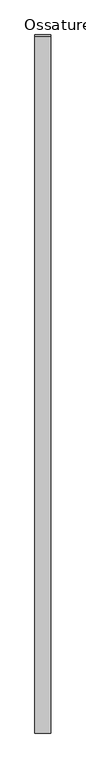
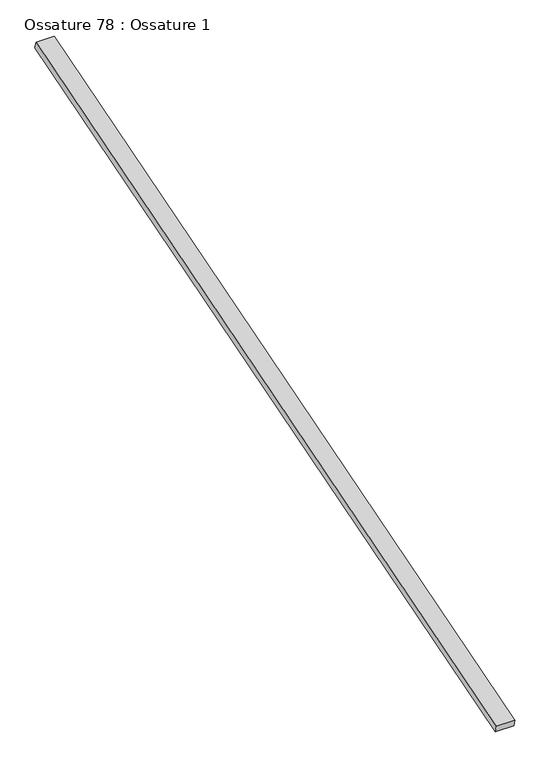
"""IFC4 building model written with IfcOpenShell, lengths in millimetres: beam geometry, Ossature 78 : Ossature 1."""

from ifc_helpers import new_model, si_unit, frame, origin, place, context, project, spatial, polyline, outline, extrude, source, transform, mapped, element, save


def ossature_78_ossature_1_b9a55639(model_context):
    return source(origin(), model_context, "Body", "SweptSolid", [
        extrude(outline(polyline([(0.0, 0.0), (0.0, -4543.0299679), (-100.0, -4543.0299679), (-100.0, 0.0), (0.0, 0.0)])), frame((18864.0466393, -833.3913565, 8153.6336115), z_axis=(0.0, -0.28734788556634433, 0.9578262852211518), x_axis=(-1.0, 0.0, 0.0)), (0.0, 0.0, 1.0), 40.0),
    ])


if __name__ == "__main__":
    model = new_model("IFC4")
    model_context = context("Model", 3, world=origin())
    ifc_project = project(units=[si_unit("LENGTHUNIT", "METRE", prefix="MILLI")], contexts=[model_context])
    site = spatial("IfcSite", under=ifc_project)
    building = spatial("IfcBuilding", under=site)
    placement = place(None, origin())
    ossature_78_ossature_1_shape = ossature_78_ossature_1_b9a55639(model_context)
    element("IfcBeam", 1, ObjectType="Ossature 78 : Ossature 1", at=placement, inside=building, context=model_context, shape_type="MappedRepresentation", body=[
        mapped(ossature_78_ossature_1_shape, transform((0.0, 0.0, 0.0), x_axis=(1.0, 0.0, 0.0), y_axis=(0.0, 1.0, 0.0), z_axis=(0.0, 0.0, 1.0))),
    ])
    save(model, "model.ifc")
